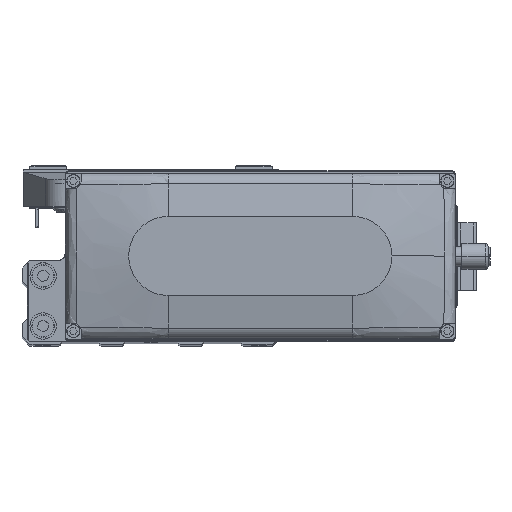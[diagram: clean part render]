
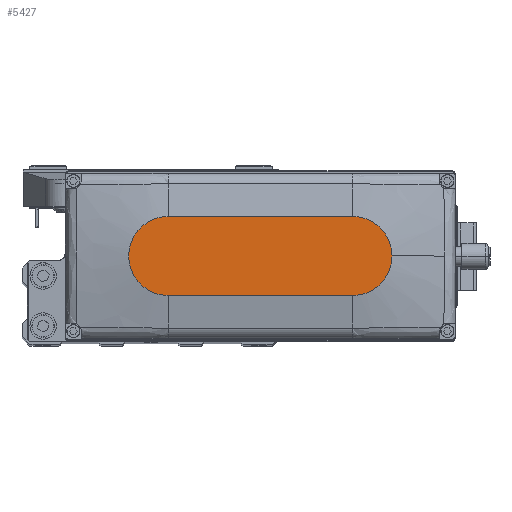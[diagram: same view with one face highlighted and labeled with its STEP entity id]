
A CAD part, top view. The second image highlights one B-rep face of the part: STEP entity #5427.
In plain terms, the highlighted planar face has unit normal (0, 0, 1).
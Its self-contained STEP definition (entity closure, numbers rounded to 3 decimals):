
#223 = EDGE_LOOP ( 'NONE', ( #42283, #10056, #20670, #11429, #9876 ) ) ;
#2231 = CARTESIAN_POINT ( 'NONE',  ( -35., 0., 35. ) ) ;
#2726 = DIRECTION ( 'NONE',  ( 1., 0., 0. ) ) ;
#3529 = DIRECTION ( 'NONE',  ( 0., 0., 1. ) ) ;
#4439 = VERTEX_POINT ( 'NONE', #23801 ) ;
#5427 = ADVANCED_FACE ( 'NONE', ( #6883 ), #20549, .T. ) ;
#5532 = CARTESIAN_POINT ( 'NONE',  ( -35., 15., 35. ) ) ;
#6883 = FACE_OUTER_BOUND ( 'NONE', #223, .T. ) ;
#7286 = VERTEX_POINT ( 'NONE', #38181 ) ;
#7415 = CIRCLE ( 'NONE', #32454, 15. ) ;
#9876 = ORIENTED_EDGE ( 'NONE', *, *, #28708, .T. ) ;
#10017 = DIRECTION ( 'NONE',  ( 1., 0., 0. ) ) ;
#10056 = ORIENTED_EDGE ( 'NONE', *, *, #41506, .T. ) ;
#10264 = EDGE_CURVE ( 'NONE', #7286, #23711, #19746, .T. ) ;
#10564 = DIRECTION ( 'NONE',  ( 1., 0., 0. ) ) ;
#11429 = ORIENTED_EDGE ( 'NONE', *, *, #19182, .T. ) ;
#11446 = AXIS2_PLACEMENT_3D ( 'NONE', #2231, #15897, #29541 ) ;
#12768 = CIRCLE ( 'NONE', #37793, 15. ) ;
#13428 = CARTESIAN_POINT ( 'NONE',  ( 35., 0., 35. ) ) ;
#15897 = DIRECTION ( 'NONE',  ( 0., 0., 1. ) ) ;
#16127 = CARTESIAN_POINT ( 'NONE',  ( 35., 15., 35. ) ) ;
#17200 = DIRECTION ( 'NONE',  ( 1., 0., 0. ) ) ;
#19182 = EDGE_CURVE ( 'NONE', #23711, #39621, #12768, .T. ) ;
#19205 = DIRECTION ( 'NONE',  ( -1., 0., 0. ) ) ;
#19746 = LINE ( 'NONE', #33407, #29875 ) ;
#20549 = PLANE ( 'NONE',  #24186 ) ;
#20670 = ORIENTED_EDGE ( 'NONE', *, *, #10264, .T. ) ;
#23711 = VERTEX_POINT ( 'NONE', #30337 ) ;
#23801 = CARTESIAN_POINT ( 'NONE',  ( -35., 15., 35. ) ) ;
#24186 = AXIS2_PLACEMENT_3D ( 'NONE', #34201, #3529, #17200 ) ;
#27076 = DIRECTION ( 'NONE',  ( 0., 0., 1. ) ) ;
#27328 = VERTEX_POINT ( 'NONE', #16127 ) ;
#27557 = CARTESIAN_POINT ( 'NONE',  ( 35., 0., 35. ) ) ;
#28708 = EDGE_CURVE ( 'NONE', #39621, #27328, #7415, .T. ) ;
#29541 = DIRECTION ( 'NONE',  ( 1., 0., 0. ) ) ;
#29875 = VECTOR ( 'NONE', #2726, 1000. ) ;
#30128 = CARTESIAN_POINT ( 'NONE',  ( 50., 0., 35. ) ) ;
#30337 = CARTESIAN_POINT ( 'NONE',  ( 35., -15., 35. ) ) ;
#30731 = CIRCLE ( 'NONE', #11446, 15. ) ;
#32454 = AXIS2_PLACEMENT_3D ( 'NONE', #13428, #27076, #10017 ) ;
#33407 = CARTESIAN_POINT ( 'NONE',  ( -35., -15., 35. ) ) ;
#34201 = CARTESIAN_POINT ( 'NONE',  ( 0., 0., 35. ) ) ;
#36203 = LINE ( 'NONE', #5532, #36502 ) ;
#36502 = VECTOR ( 'NONE', #19205, 1000. ) ;
#37793 = AXIS2_PLACEMENT_3D ( 'NONE', #27557, #41230, #10564 ) ;
#38181 = CARTESIAN_POINT ( 'NONE',  ( -35., -15., 35. ) ) ;
#39621 = VERTEX_POINT ( 'NONE', #30128 ) ;
#41230 = DIRECTION ( 'NONE',  ( 0., 0., 1. ) ) ;
#41506 = EDGE_CURVE ( 'NONE', #4439, #7286, #30731, .T. ) ;
#41951 = EDGE_CURVE ( 'NONE', #27328, #4439, #36203, .T. ) ;
#42283 = ORIENTED_EDGE ( 'NONE', *, *, #41951, .T. ) ;
